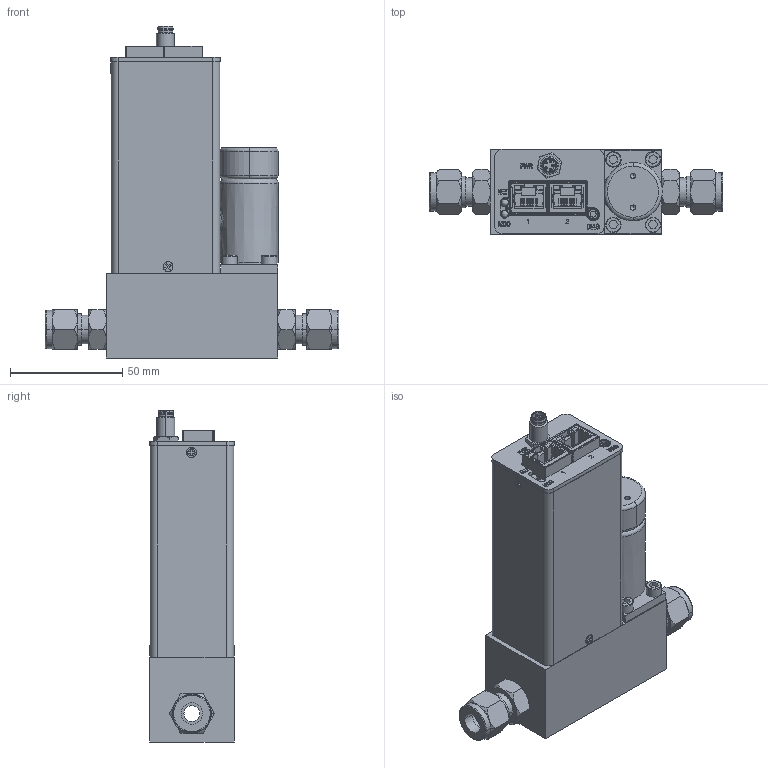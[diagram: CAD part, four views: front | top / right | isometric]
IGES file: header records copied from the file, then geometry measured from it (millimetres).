
Start section: SolidWorks IGES file using analytic representation for surfaces
Global section: file name: G:\Engineering\CAD MODELS FOR SALES\CAD MODEL STORAGE\SLA\SLA5850\IGES\SLA5850-7-1D-1-A-REVB.IGS; native system: SolidWorks 2019; preprocessor: SolidWorks 2019; author: CFehr; date: 200211.093548; units: inch
Bounding box: 130.71 x 38.07 x 147.97 mm (x, y, z)
Volume: 63819.7 mm3; surface area: 96456.5 mm2
Topology: 50 solids, 50 shells, 1916 faces, 5024 edges, 3184 vertices
Faces by surface type: plane 1236, revolution 549, bspline 131
